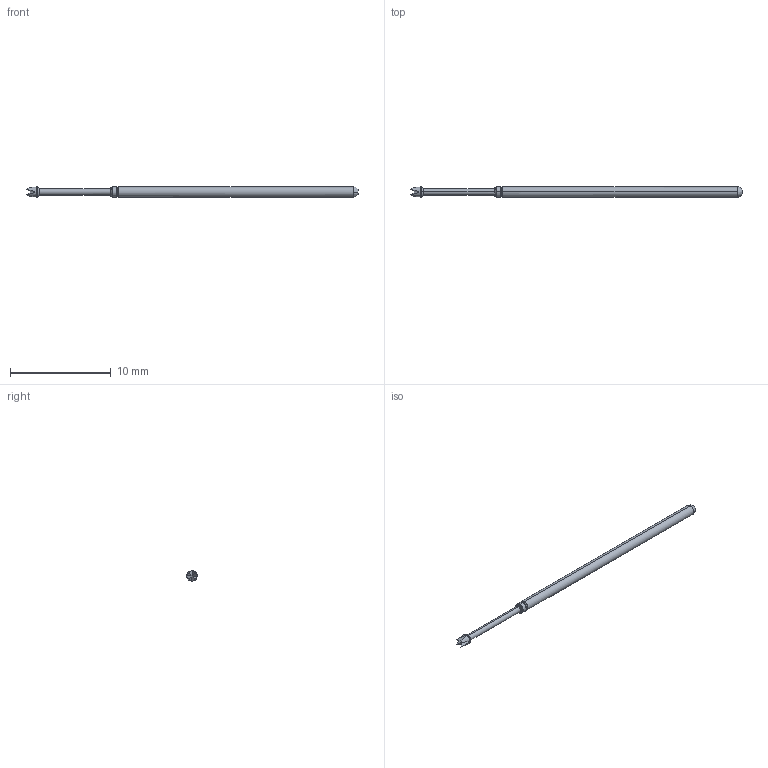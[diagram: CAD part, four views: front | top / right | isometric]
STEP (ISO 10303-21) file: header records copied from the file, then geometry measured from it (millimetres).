
FILE_DESCRIPTION (( 'STEP AP214' ), '1' );
FILE_NAME ('LPA2Q-040.STEP', '2023-06-05T11:07:49', ( '' ), ( '' ), 'SwSTEP 2.0', 'SolidWorks 2022', '' );
FILE_SCHEMA (( 'AUTOMOTIVE_DESIGN' ));
Length unit declared in the file: inch
Products named in the file (1): LPA2Q-040
Bounding box: 33.02 x 1.02 x 1.02 mm (x, y, z)
Volume: 22.5 mm3; surface area: 97.5 mm2
Topology: 1 solids, 1 shells, 32 faces, 64 edges, 35 vertices
Faces by surface type: bspline 32
Entity records: 1077 total; most frequent: CARTESIAN_POINT 657, ORIENTED_EDGE 128, EDGE_CURVE 64, B_SPLINE_CURVE_WITH_KNOTS 38, VERTEX_POINT 35, EDGE_LOOP 33, FACE_OUTER_BOUND 32, ADVANCED_FACE 32
